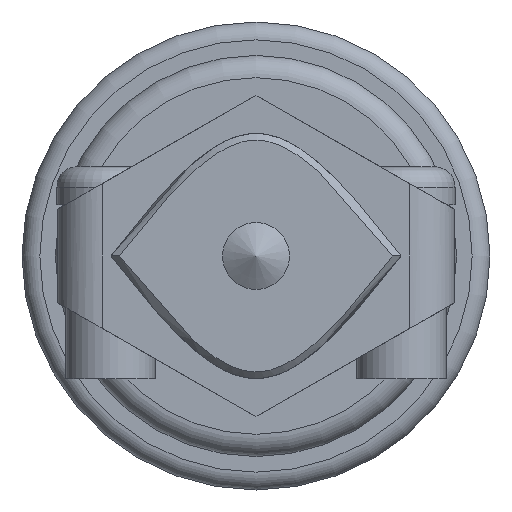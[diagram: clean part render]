
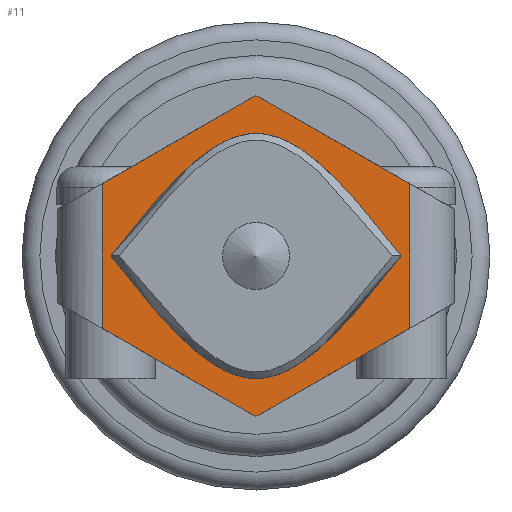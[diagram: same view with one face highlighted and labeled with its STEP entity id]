
A CAD part, left-side view. The second image highlights one B-rep face of the part: STEP entity #11.
In plain terms, the highlighted planar face has unit normal (-1, 0, 0).
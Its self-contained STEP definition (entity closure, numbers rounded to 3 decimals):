
#11 = ADVANCED_FACE ( 'NONE', ( #774, #387 ), #615, .F. ) ;
#19 = CARTESIAN_POINT ( 'NONE',  ( 111.691, 63.561, 59.953 ) ) ;
#32 = CARTESIAN_POINT ( 'NONE',  ( 111.691, 47.761, 61.099 ) ) ;
#59 = LINE ( 'NONE', #429, #2180 ) ;
#74 = CARTESIAN_POINT ( 'NONE',  ( 111.691, 54.661, 50.653 ) ) ;
#115 = DIRECTION ( 'NONE',  ( 0., 0.868, -0.497 ) ) ;
#138 = VECTOR ( 'NONE', #262, 1000. ) ;
#262 = DIRECTION ( 'NONE',  ( 0., -0.868, 0.497 ) ) ;
#376 = DIRECTION ( 'NONE',  ( 0., 0., 1. ) ) ;
#387 = FACE_BOUND ( 'NONE', #1291, .T. ) ;
#425 = VERTEX_POINT ( 'NONE', #474 ) ;
#429 = CARTESIAN_POINT ( 'NONE',  ( 111.691, 61.561, 59.953 ) ) ;
#464 = CARTESIAN_POINT ( 'NONE',  ( 111.691, 63.561, 55.753 ) ) ;
#474 = CARTESIAN_POINT ( 'NONE',  ( 111.691, 54.661, 65.053 ) ) ;
#482 = VECTOR ( 'NONE', #1300, 1000. ) ;
#501 = CARTESIAN_POINT ( 'NONE',  ( 111.691, 48.161, 57.853 ) ) ;
#521 = EDGE_CURVE ( 'NONE', #2054, #1525, #717, .T. ) ;
#535 = CARTESIAN_POINT ( 'NONE',  ( 111.691, 61.561, 61.099 ) ) ;
#544 = DIRECTION ( 'NONE',  ( 0., 0.868, 0.497 ) ) ;
#552 = CARTESIAN_POINT ( 'NONE',  ( 111.691, 48.161, 57.853 ) ) ;
#555 = LINE ( 'NONE', #1720, #482 ) ;
#571 = EDGE_CURVE ( 'NONE', #425, #1328, #1480, .T. ) ;
#597 = AXIS2_PLACEMENT_3D ( 'NONE', #19, #1367, #376 ) ;
#615 = PLANE ( 'NONE',  #597 ) ;
#620 = EDGE_CURVE ( 'NONE', #921, #1422, #555, .T. ) ;
#645 = VECTOR ( 'NONE', #544, 1000. ) ;
#675 = ORIENTED_EDGE ( 'NONE', *, *, #620, .T. ) ;
#705 = CARTESIAN_POINT ( 'NONE',  ( 111.691, 54.661, 66.103 ) ) ;
#717 = B_SPLINE_CURVE_WITH_KNOTS ( 'NONE', 3,
 ( #870, #1253, #705, #1815, #2211 ),
 .UNSPECIFIED., .F., .F.,
 ( 4, 1, 4 ),
 ( 0., 0.5, 1. ),
 .UNSPECIFIED. ) ;
#747 = VERTEX_POINT ( 'NONE', #74 ) ;
#774 = FACE_OUTER_BOUND ( 'NONE', #2207, .T. ) ;
#870 = CARTESIAN_POINT ( 'NONE',  ( 111.691, 48.161, 57.853 ) ) ;
#908 = VECTOR ( 'NONE', #115, 1000. ) ;
#921 = VERTEX_POINT ( 'NONE', #2209 ) ;
#941 = CARTESIAN_POINT ( 'NONE',  ( 111.691, 58.994, 55.103 ) ) ;
#945 = ORIENTED_EDGE ( 'NONE', *, *, #571, .T. ) ;
#1089 = CARTESIAN_POINT ( 'NONE',  ( 111.691, 45.761, 59.953 ) ) ;
#1145 = EDGE_CURVE ( 'NONE', #747, #921, #1946, .T. ) ;
#1182 = DIRECTION ( 'NONE',  ( 0., 0., -1. ) ) ;
#1232 = EDGE_CURVE ( 'NONE', #1328, #1939, #59, .T. ) ;
#1253 = CARTESIAN_POINT ( 'NONE',  ( 111.691, 50.327, 60.603 ) ) ;
#1291 = EDGE_LOOP ( 'NONE', ( #1781, #2055 ) ) ;
#1299 = CARTESIAN_POINT ( 'NONE',  ( 111.691, 61.161, 57.853 ) ) ;
#1300 = DIRECTION ( 'NONE',  ( 0., 0., 1. ) ) ;
#1328 = VERTEX_POINT ( 'NONE', #535 ) ;
#1367 = DIRECTION ( 'NONE',  ( 1., 0., 0. ) ) ;
#1422 = VERTEX_POINT ( 'NONE', #32 ) ;
#1438 = B_SPLINE_CURVE_WITH_KNOTS ( 'NONE', 3,
 ( #1299, #941, #2422, #1869, #552 ),
 .UNSPECIFIED., .F., .F.,
 ( 4, 1, 4 ),
 ( 0., 0.5, 1. ),
 .UNSPECIFIED. ) ;
#1480 = LINE ( 'NONE', #1805, #908 ) ;
#1519 = ORIENTED_EDGE ( 'NONE', *, *, #1581, .T. ) ;
#1525 = VERTEX_POINT ( 'NONE', #1564 ) ;
#1564 = CARTESIAN_POINT ( 'NONE',  ( 111.691, 61.161, 57.853 ) ) ;
#1578 = CARTESIAN_POINT ( 'NONE',  ( 111.691, 45.761, 55.753 ) ) ;
#1581 = EDGE_CURVE ( 'NONE', #1939, #747, #1602, .T. ) ;
#1602 = LINE ( 'NONE', #464, #2011 ) ;
#1609 = CARTESIAN_POINT ( 'NONE',  ( 111.691, 61.561, 54.607 ) ) ;
#1636 = EDGE_CURVE ( 'NONE', #1422, #425, #1817, .T. ) ;
#1720 = CARTESIAN_POINT ( 'NONE',  ( 111.691, 47.761, 59.953 ) ) ;
#1781 = ORIENTED_EDGE ( 'NONE', *, *, #2315, .F. ) ;
#1805 = CARTESIAN_POINT ( 'NONE',  ( 111.691, 63.561, 59.953 ) ) ;
#1814 = ORIENTED_EDGE ( 'NONE', *, *, #1636, .T. ) ;
#1815 = CARTESIAN_POINT ( 'NONE',  ( 111.691, 58.994, 60.603 ) ) ;
#1817 = LINE ( 'NONE', #1089, #645 ) ;
#1869 = CARTESIAN_POINT ( 'NONE',  ( 111.691, 50.327, 55.103 ) ) ;
#1872 = ORIENTED_EDGE ( 'NONE', *, *, #1145, .T. ) ;
#1939 = VERTEX_POINT ( 'NONE', #1609 ) ;
#1946 = LINE ( 'NONE', #1578, #138 ) ;
#2011 = VECTOR ( 'NONE', #2344, 1000. ) ;
#2054 = VERTEX_POINT ( 'NONE', #501 ) ;
#2055 = ORIENTED_EDGE ( 'NONE', *, *, #521, .F. ) ;
#2180 = VECTOR ( 'NONE', #1182, 1000. ) ;
#2207 = EDGE_LOOP ( 'NONE', ( #1872, #675, #1814, #945, #2402, #1519 ) ) ;
#2209 = CARTESIAN_POINT ( 'NONE',  ( 111.691, 47.761, 54.607 ) ) ;
#2211 = CARTESIAN_POINT ( 'NONE',  ( 111.691, 61.161, 57.853 ) ) ;
#2315 = EDGE_CURVE ( 'NONE', #1525, #2054, #1438, .T. ) ;
#2344 = DIRECTION ( 'NONE',  ( 0., -0.868, -0.497 ) ) ;
#2402 = ORIENTED_EDGE ( 'NONE', *, *, #1232, .T. ) ;
#2422 = CARTESIAN_POINT ( 'NONE',  ( 111.691, 54.661, 49.603 ) ) ;
